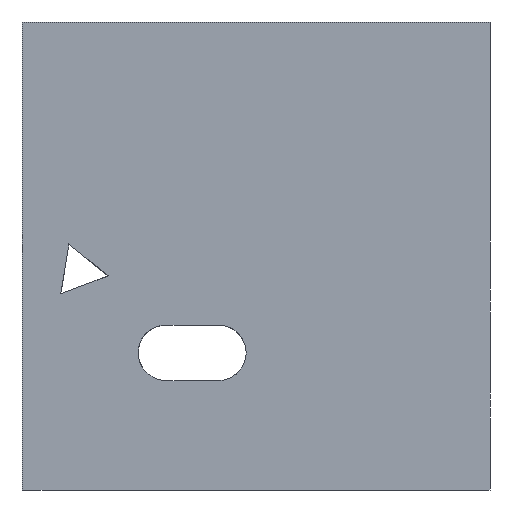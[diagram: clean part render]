
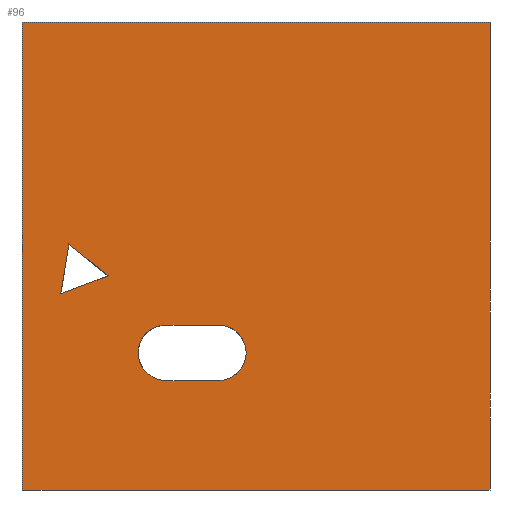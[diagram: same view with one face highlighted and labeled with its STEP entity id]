
A CAD part, left-side view. The second image highlights one B-rep face of the part: STEP entity #96.
In plain terms, the highlighted planar face has unit normal (-1, 0, 0).
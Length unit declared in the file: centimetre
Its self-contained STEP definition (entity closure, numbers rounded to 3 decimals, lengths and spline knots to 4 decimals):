
#7 = CARTESIAN_POINT ( 'NONE',  ( 0., 580.2702, 233.9483 ) ) ;
#20 = ORIENTED_EDGE ( 'NONE', *, *, #1328, .T. ) ;
#26 = CARTESIAN_POINT ( 'NONE',  ( 0., 816.0935, 457.3654 ) ) ;
#31 = VECTOR ( 'NONE', #1550, 100. ) ;
#53 = DIRECTION ( 'NONE',  ( 0., 0., -1. ) ) ;
#96 = ADVANCED_FACE ( 'NONE', ( #700, #269, #1337 ), #1899, .F. ) ;
#123 = DIRECTION ( 'NONE',  ( 0., 1., 0. ) ) ;
#124 = VERTEX_POINT ( 'NONE', #1469 ) ;
#131 = ORIENTED_EDGE ( 'NONE', *, *, #1561, .F. ) ;
#155 = CARTESIAN_POINT ( 'NONE',  ( 0., 0., 1000. ) ) ;
#170 = CIRCLE ( 'NONE', #1175, 59.216 ) ;
#186 = VERTEX_POINT ( 'NONE', #1603 ) ;
#199 = CIRCLE ( 'NONE', #860, 59.216 ) ;
#208 = CARTESIAN_POINT ( 'NONE',  ( 0., 1000., 1000. ) ) ;
#250 = CARTESIAN_POINT ( 'NONE',  ( 0., 1000., 0. ) ) ;
#256 = AXIS2_PLACEMENT_3D ( 'NONE', #736, #261, #1003 ) ;
#261 = DIRECTION ( 'NONE',  ( 1., 0., 0. ) ) ;
#269 = FACE_BOUND ( 'NONE', #287, .T. ) ;
#275 = CARTESIAN_POINT ( 'NONE',  ( 0., 0., 0. ) ) ;
#287 = EDGE_LOOP ( 'NONE', ( #1501, #1724, #1764 ) ) ;
#314 = DIRECTION ( 'NONE',  ( 0., 0., -1. ) ) ;
#334 = EDGE_CURVE ( 'NONE', #597, #1061, #199, .T. ) ;
#407 = DIRECTION ( 'NONE',  ( 0., 0.161, -0.987 ) ) ;
#413 = ORIENTED_EDGE ( 'NONE', *, *, #1852, .T. ) ;
#420 = VERTEX_POINT ( 'NONE', #208 ) ;
#432 = CARTESIAN_POINT ( 'NONE',  ( 0., 580.2702, 233.9483 ) ) ;
#479 = CARTESIAN_POINT ( 'NONE',  ( 0., 0., 1000. ) ) ;
#497 = VECTOR ( 'NONE', #53, 100. ) ;
#559 = VERTEX_POINT ( 'NONE', #26 ) ;
#591 = EDGE_CURVE ( 'NONE', #186, #1691, #170, .T. ) ;
#597 = VERTEX_POINT ( 'NONE', #784 ) ;
#625 = ORIENTED_EDGE ( 'NONE', *, *, #1765, .T. ) ;
#640 = LINE ( 'NONE', #1796, #980 ) ;
#682 = LINE ( 'NONE', #1705, #1037 ) ;
#700 = FACE_BOUND ( 'NONE', #1364, .T. ) ;
#705 = EDGE_CURVE ( 'NONE', #830, #124, #1168, .T. ) ;
#736 = CARTESIAN_POINT ( 'NONE',  ( 0., 1000., 1000. ) ) ;
#750 = VERTEX_POINT ( 'NONE', #250 ) ;
#770 = DIRECTION ( 'NONE',  ( 1., 0., 0. ) ) ;
#781 = LINE ( 'NONE', #432, #1861 ) ;
#784 = CARTESIAN_POINT ( 'NONE',  ( 0., 580.2702, 352.3804 ) ) ;
#810 = DIRECTION ( 'NONE',  ( 0., -1., 0. ) ) ;
#815 = DIRECTION ( 'NONE',  ( 1., 0., 0. ) ) ;
#818 = CARTESIAN_POINT ( 'NONE',  ( 0., 1000., 0. ) ) ;
#820 = DIRECTION ( 'NONE',  ( 0., -0.935, 0.354 ) ) ;
#830 = VERTEX_POINT ( 'NONE', #1581 ) ;
#841 = ORIENTED_EDGE ( 'NONE', *, *, #591, .T. ) ;
#860 = AXIS2_PLACEMENT_3D ( 'NONE', #1842, #815, #1281 ) ;
#879 = VECTOR ( 'NONE', #314, 100. ) ;
#943 = ORIENTED_EDGE ( 'NONE', *, *, #1117, .F. ) ;
#948 = CARTESIAN_POINT ( 'NONE',  ( 0., 692.4706, 293.1644 ) ) ;
#958 = CARTESIAN_POINT ( 'NONE',  ( 0., 692.4706, 352.3804 ) ) ;
#980 = VECTOR ( 'NONE', #1532, 100. ) ;
#1003 = DIRECTION ( 'NONE',  ( 0., 0., -1. ) ) ;
#1037 = VECTOR ( 'NONE', #820, 100. ) ;
#1051 = VECTOR ( 'NONE', #407, 100. ) ;
#1061 = VERTEX_POINT ( 'NONE', #7 ) ;
#1079 = LINE ( 'NONE', #479, #879 ) ;
#1117 = EDGE_CURVE ( 'NONE', #420, #1166, #640, .T. ) ;
#1131 = CARTESIAN_POINT ( 'NONE',  ( 0., 1000., 1000. ) ) ;
#1166 = VERTEX_POINT ( 'NONE', #155 ) ;
#1168 = LINE ( 'NONE', #1601, #1051 ) ;
#1175 = AXIS2_PLACEMENT_3D ( 'NONE', #948, #770, #1373 ) ;
#1232 = EDGE_LOOP ( 'NONE', ( #413, #131, #943, #625 ) ) ;
#1249 = LINE ( 'NONE', #1286, #31 ) ;
#1281 = DIRECTION ( 'NONE',  ( 0., 0., -1. ) ) ;
#1286 = CARTESIAN_POINT ( 'NONE',  ( 0., 692.4706, 352.3804 ) ) ;
#1296 = EDGE_CURVE ( 'NONE', #124, #559, #682, .T. ) ;
#1328 = EDGE_CURVE ( 'NONE', #1691, #597, #1249, .T. ) ;
#1337 = FACE_OUTER_BOUND ( 'NONE', #1232, .T. ) ;
#1364 = EDGE_LOOP ( 'NONE', ( #20, #1742, #1656, #841 ) ) ;
#1373 = DIRECTION ( 'NONE',  ( 0., 0., -1. ) ) ;
#1389 = VECTOR ( 'NONE', #810, 100. ) ;
#1422 = VECTOR ( 'NONE', #1611, 100. ) ;
#1458 = LINE ( 'NONE', #1897, #1422 ) ;
#1469 = CARTESIAN_POINT ( 'NONE',  ( 0., 917.1045, 419.1368 ) ) ;
#1501 = ORIENTED_EDGE ( 'NONE', *, *, #1296, .F. ) ;
#1531 = EDGE_CURVE ( 'NONE', #559, #830, #1458, .T. ) ;
#1532 = DIRECTION ( 'NONE',  ( 0., -1., 0. ) ) ;
#1550 = DIRECTION ( 'NONE',  ( 0., -1., 0. ) ) ;
#1561 = EDGE_CURVE ( 'NONE', #1166, #1945, #1079, .T. ) ;
#1581 = CARTESIAN_POINT ( 'NONE',  ( 0., 899.7059, 525.7292 ) ) ;
#1601 = CARTESIAN_POINT ( 'NONE',  ( 0., 899.7059, 525.7292 ) ) ;
#1603 = CARTESIAN_POINT ( 'NONE',  ( 0., 692.4706, 233.9483 ) ) ;
#1611 = DIRECTION ( 'NONE',  ( 0., 0.774, 0.633 ) ) ;
#1656 = ORIENTED_EDGE ( 'NONE', *, *, #1909, .T. ) ;
#1691 = VERTEX_POINT ( 'NONE', #958 ) ;
#1704 = LINE ( 'NONE', #1131, #497 ) ;
#1705 = CARTESIAN_POINT ( 'NONE',  ( 0., 917.1045, 419.1368 ) ) ;
#1724 = ORIENTED_EDGE ( 'NONE', *, *, #705, .F. ) ;
#1742 = ORIENTED_EDGE ( 'NONE', *, *, #334, .T. ) ;
#1764 = ORIENTED_EDGE ( 'NONE', *, *, #1531, .F. ) ;
#1765 = EDGE_CURVE ( 'NONE', #420, #750, #1704, .T. ) ;
#1796 = CARTESIAN_POINT ( 'NONE',  ( 0., 1000., 1000. ) ) ;
#1842 = CARTESIAN_POINT ( 'NONE',  ( 0., 580.2702, 293.1644 ) ) ;
#1845 = LINE ( 'NONE', #818, #1389 ) ;
#1852 = EDGE_CURVE ( 'NONE', #750, #1945, #1845, .T. ) ;
#1861 = VECTOR ( 'NONE', #123, 100. ) ;
#1897 = CARTESIAN_POINT ( 'NONE',  ( 0., 816.0935, 457.3654 ) ) ;
#1899 = PLANE ( 'NONE',  #256 ) ;
#1909 = EDGE_CURVE ( 'NONE', #1061, #186, #781, .T. ) ;
#1945 = VERTEX_POINT ( 'NONE', #275 ) ;
